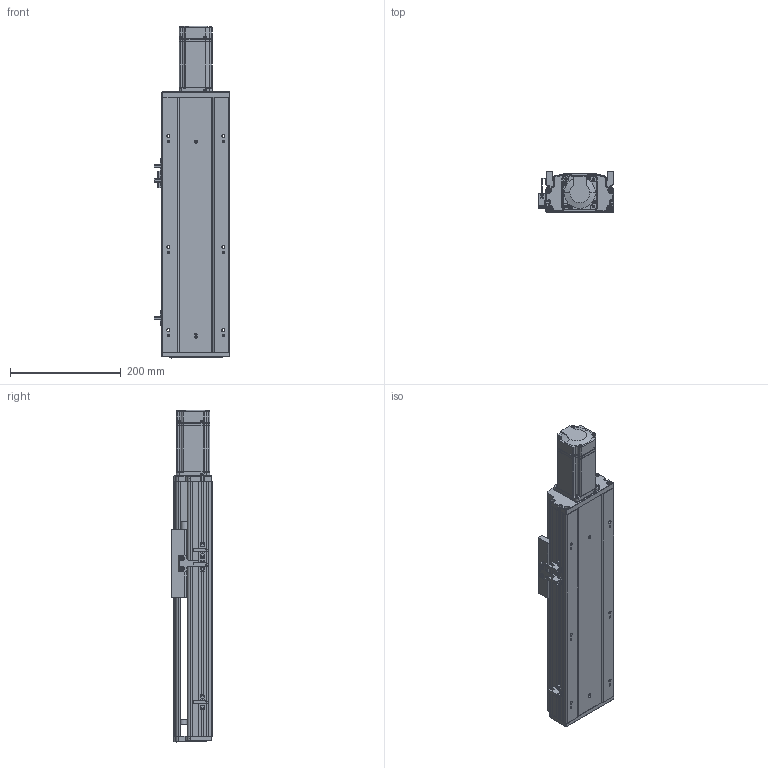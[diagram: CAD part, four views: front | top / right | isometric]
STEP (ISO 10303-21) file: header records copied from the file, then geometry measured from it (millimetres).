
FILE_DESCRIPTION (( 'STEP AP203' ), '1' );
FILE_NAME ('RY120Q-L1610-500-MK.SLDASM_0200.step', '2021-05-19T01:44:20', ( '盈信电脑' ), ( '东莞市道滘镇水果街19号' ), 'SwSTEP 2.0', 'SolidWorks 2016', '' );
FILE_SCHEMA (( 'CONFIG_CONTROL_DESIGN' ));
Length unit declared in the file: millimetre
Products named in the file (14): RY120Q-L1610-500-MK.SLDASM_0200; RY120外置感应片(140共用）; RY120铝滑块16丝杆（FK12）; 滅袉蝶18-10; 侂狟400W侜督萇儂; RY120QGB-1.8; 15; 鞠褒坶踡蹟譫BK12 ; 覜茼ん672; RY120綴裔啣; 滅袉蝶18-15; RY120萇儂釱FK12; RY120-500-MK倰第奻裔啣_0200; RY120-500-MK倰第菁釱_0200
Assembly tree (16 placements, depth 3):
  RY120Q-L1610-500-MK.SLDASM_0200
    RY120-500-MK倰第菁釱_0200
    RY120-500-MK倰第奻裔啣_0200
    侂狟400W侜督萇儂
      15
    鞠褒坶踡蹟譫BK12 
    RY120綴裔啣
    覜茼ん672  x3
    滅袉蝶18-10
    滅袉蝶18-15  x2
    RY120外置感应片(140共用）
    RY120QGB-1.8
    RY120铝滑块16丝杆（FK12）
    RY120萇儂釱FK12
Bounding box: 135.7 x 74 x 598.5 mm (x, y, z)
Volume: 1875560.7 mm3; surface area: 597510.4 mm2
Topology: 16 solids, 16 shells, 2042 faces, 5575 edges, 3568 vertices
Faces by surface type: plane 989, cylinder 749, cone 203, bspline 101
Entity records: 66255 total; most frequent: CARTESIAN_POINT 18063, ORIENTED_EDGE 9942, DIRECTION 9451, EDGE_CURVE 4971, VERTEX_POINT 3236, AXIS2_PLACEMENT_3D 3224, LINE 3003, VECTOR 3003
